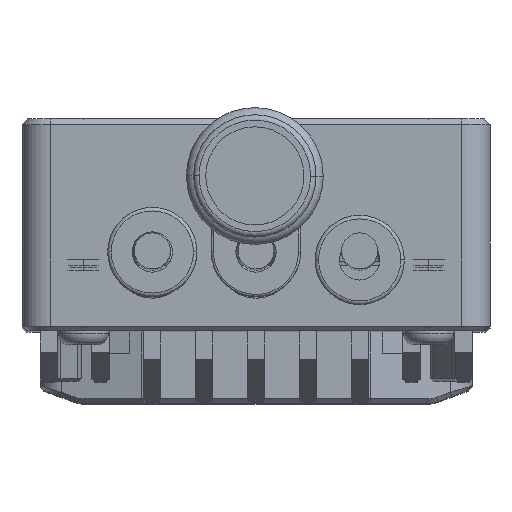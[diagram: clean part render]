
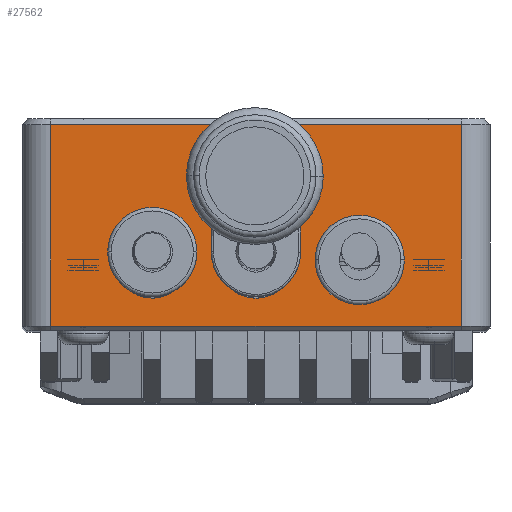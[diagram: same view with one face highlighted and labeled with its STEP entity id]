
A CAD part, top view. The second image highlights one B-rep face of the part: STEP entity #27562.
In plain terms, the highlighted planar face has unit normal (0, 0, 1).
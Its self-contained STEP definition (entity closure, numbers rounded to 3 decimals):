
#2441=DIRECTION('',(1.,0.,0.));
#2442=VECTOR('',#2441,28.5);
#2443=CARTESIAN_POINT('',(-14.25,16.9,35.5));
#2444=LINE('',#2443,#2442);
#2445=DIRECTION('',(-1.,0.,0.));
#2446=VECTOR('',#2445,28.5);
#2447=CARTESIAN_POINT('',(14.25,2.9,35.5));
#2448=LINE('',#2447,#2446);
#2449=CARTESIAN_POINT('',(7.2,7.5,35.5));
#2450=DIRECTION('',(0.,0.,-1.));
#2451=DIRECTION('',(-1.,0.,0.));
#2452=AXIS2_PLACEMENT_3D('',#2449,#2450,#2451);
#2454=CARTESIAN_POINT('',(7.2,7.5,35.5));
#2455=DIRECTION('',(0.,0.,-1.));
#2456=DIRECTION('',(1.,0.,0.));
#2457=AXIS2_PLACEMENT_3D('',#2454,#2455,#2456);
#2459=CARTESIAN_POINT('',(-7.2,8.05,35.5));
#2460=DIRECTION('',(0.,0.,-1.));
#2461=DIRECTION('',(-1.,0.,0.));
#2462=AXIS2_PLACEMENT_3D('',#2459,#2460,#2461);
#2464=CARTESIAN_POINT('',(-7.2,8.05,35.5));
#2465=DIRECTION('',(0.,0.,-1.));
#2466=DIRECTION('',(-0.531,-0.848,0.));
#2467=AXIS2_PLACEMENT_3D('',#2464,#2465,#2466);
#2469=CARTESIAN_POINT('',(-7.2,7.5,35.5));
#2470=DIRECTION('',(0.,0.,1.));
#2471=DIRECTION('',(-0.621,-0.784,0.));
#2472=AXIS2_PLACEMENT_3D('',#2469,#2470,#2471);
#2474=CARTESIAN_POINT('',(-7.2,8.05,35.5));
#2475=DIRECTION('',(0.,0.,-1.));
#2476=DIRECTION('',(1.,0.,0.));
#2477=AXIS2_PLACEMENT_3D('',#2474,#2475,#2476);
#2479=DIRECTION('',(-0.004,-1.,0.));
#2480=VECTOR('',#2479,7.);
#2481=CARTESIAN_POINT('',(-3.074,15.061,35.5));
#2482=LINE('',#2481,#2480);
#2483=CARTESIAN_POINT('',(0.,8.05,35.5));
#2484=DIRECTION('',(0.,0.,1.));
#2485=DIRECTION('',(-1.,0.004,0.));
#2486=AXIS2_PLACEMENT_3D('',#2483,#2484,#2485);
#2488=CARTESIAN_POINT('',(0.,7.5,35.5));
#2489=DIRECTION('',(0.,0.,1.));
#2490=DIRECTION('',(-0.621,-0.784,0.));
#2491=AXIS2_PLACEMENT_3D('',#2488,#2489,#2490);
#2493=CARTESIAN_POINT('',(0.,8.05,35.5));
#2494=DIRECTION('',(0.,0.,1.));
#2495=DIRECTION('',(0.531,-0.848,0.));
#2496=AXIS2_PLACEMENT_3D('',#2493,#2494,#2495);
#2498=DIRECTION('',(0.004,1.,0.));
#2499=VECTOR('',#2498,7.);
#2500=CARTESIAN_POINT('',(3.1,8.039,35.5));
#2501=LINE('',#2500,#2499);
#2502=CARTESIAN_POINT('',(1.626,15.044,35.5));
#2503=DIRECTION('',(0.,0.,1.));
#2504=DIRECTION('',(1.,-0.004,0.));
#2505=AXIS2_PLACEMENT_3D('',#2502,#2503,#2504);
#2507=DIRECTION('',(1.,-0.004,0.));
#2508=VECTOR('',#2507,3.2);
#2509=CARTESIAN_POINT('',(-1.569,16.556,35.5));
#2510=LINE('',#2509,#2508);
#2511=CARTESIAN_POINT('',(-1.574,15.056,35.5));
#2512=DIRECTION('',(0.,0.,1.));
#2513=DIRECTION('',(0.004,1.,0.));
#2514=AXIS2_PLACEMENT_3D('',#2511,#2512,#2513);
#2525=DIRECTION('',(0.,-1.,0.));
#2526=VECTOR('',#2525,14.);
#2527=CARTESIAN_POINT('',(-14.25,16.9,35.5));
#2528=LINE('',#2527,#2526);
#2658=DIRECTION('',(0.,1.,0.));
#2659=VECTOR('',#2658,14.);
#2660=CARTESIAN_POINT('',(14.25,2.9,35.5));
#2661=LINE('',#2660,#2659);
#21606=CARTESIAN_POINT('',(14.25,2.9,35.5));
#21608=VERTEX_POINT('',#21606);
#21609=CARTESIAN_POINT('',(-14.25,2.9,
35.5));
#21610=VERTEX_POINT('',#21609);
#23522=CARTESIAN_POINT('',(-14.25,16.9,35.5));
#23524=VERTEX_POINT('',#23522);
#23527=CARTESIAN_POINT('',(14.25,16.9,35.5));
#23528=VERTEX_POINT('',#23527);
#24124=CARTESIAN_POINT('',(4.1,7.5,35.5));
#24125=CARTESIAN_POINT('',(10.3,7.5,35.5));
#24126=VERTEX_POINT('',#24124);
#24127=VERTEX_POINT('',#24125);
#24195=CARTESIAN_POINT('',(-10.3,8.05,35.5));
#24196=CARTESIAN_POINT('',(-4.1,8.05,35.5));
#24197=VERTEX_POINT('',#24195);
#24198=VERTEX_POINT('',#24196);
#24199=CARTESIAN_POINT('',(-5.555,5.423,35.5));
#24200=VERTEX_POINT('',#24199);
#24201=CARTESIAN_POINT('',(-8.845,5.423,35.5));
#24202=VERTEX_POINT('',#24201);
#24505=CARTESIAN_POINT('',(-3.074,15.061,35.5));
#24506=CARTESIAN_POINT('',(-3.1,8.061,35.5));
#24507=VERTEX_POINT('',#24505);
#24508=VERTEX_POINT('',#24506);
#24509=CARTESIAN_POINT('',(-1.645,5.423,35.5));
#24510=VERTEX_POINT('',#24509);
#24511=CARTESIAN_POINT('',(1.645,5.423,35.5));
#24512=CARTESIAN_POINT('',(3.1,8.039,35.5));
#24513=VERTEX_POINT('',#24511);
#24514=VERTEX_POINT('',#24512);
#24515=CARTESIAN_POINT('',(3.126,15.038,35.5));
#24516=VERTEX_POINT('',#24515);
#24517=CARTESIAN_POINT('',(-1.569,16.556,35.5));
#24518=CARTESIAN_POINT('',(1.631,16.544,35.5));
#24519=VERTEX_POINT('',#24517);
#24520=VERTEX_POINT('',#24518);
#27516=CARTESIAN_POINT('',(-16.25,0.,35.5));
#27517=DIRECTION('',(0.,0.,1.));
#27518=DIRECTION('',(1.,0.,0.));
#27519=AXIS2_PLACEMENT_3D('',#27516,#27517,#27518);
#27520=PLANE('',#27519);
#27522=ORIENTED_EDGE('',*,*,#27521,.F.);
#27524=ORIENTED_EDGE('',*,*,#27523,.T.);
#27526=ORIENTED_EDGE('',*,*,#27525,.F.);
#27528=ORIENTED_EDGE('',*,*,#27527,.T.);
#27529=EDGE_LOOP('',(#27522,#27524,#27526,#27528));
#27530=FACE_OUTER_BOUND('',#27529,.F.);
#27532=ORIENTED_EDGE('',*,*,#27531,.F.);
#27534=ORIENTED_EDGE('',*,*,#27533,.F.);
#27535=EDGE_LOOP('',(#27532,#27534));
#27536=FACE_BOUND('',#27535,.F.);
#27538=ORIENTED_EDGE('',*,*,#27537,.F.);
#27539=ORIENTED_EDGE('',*,*,#27505,.F.);
#27540=ORIENTED_EDGE('',*,*,#27467,.T.);
#27541=ORIENTED_EDGE('',*,*,#27502,.F.);
#27542=EDGE_LOOP('',(#27538,#27539,#27540,#27541));
#27543=FACE_BOUND('',#27542,.F.);
#27545=ORIENTED_EDGE('',*,*,#27544,.T.);
#27547=ORIENTED_EDGE('',*,*,#27546,.T.);
#27549=ORIENTED_EDGE('',*,*,#27548,.T.);
#27551=ORIENTED_EDGE('',*,*,#27550,.T.);
#27553=ORIENTED_EDGE('',*,*,#27552,.T.);
#27555=ORIENTED_EDGE('',*,*,#27554,.T.);
#27557=ORIENTED_EDGE('',*,*,#27556,.F.);
#27559=ORIENTED_EDGE('',*,*,#27558,.T.);
#27560=EDGE_LOOP('',(#27545,#27547,#27549,#27551,#27553,#27555,#27557,#27559));
#27561=FACE_BOUND('',#27560,.F.);
#27562=ADVANCED_FACE('',(#27530,#27536,#27543,#27561),#27520,.T.);
#2453=CIRCLE('',#2452,3.1);
#2458=CIRCLE('',#2457,3.1);
#2463=CIRCLE('',#2462,3.1);
#2468=CIRCLE('',#2467,3.1);
#2473=CIRCLE('',#2472,2.65);
#2478=CIRCLE('',#2477,3.1);
#2487=CIRCLE('',#2486,3.1);
#2492=CIRCLE('',#2491,2.65);
#2497=CIRCLE('',#2496,3.1);
#2506=CIRCLE('',#2505,1.5);
#2515=CIRCLE('',#2514,1.5);
#27467=EDGE_CURVE('',#24202,#24200,#2473,.T.);
#27502=EDGE_CURVE('',#24198,#24200,#2478,.T.);
#27505=EDGE_CURVE('',#24202,#24197,#2468,.T.);
#27521=EDGE_CURVE('',#23524,#21610,#2528,.T.);
#27523=EDGE_CURVE('',#23524,#23528,#2444,.T.);
#27525=EDGE_CURVE('',#21608,#23528,#2661,.T.);
#27527=EDGE_CURVE('',#21608,#21610,#2448,.T.);
#27531=EDGE_CURVE('',#24126,#24127,#2453,.T.);
#27533=EDGE_CURVE('',#24127,#24126,#2458,.T.);
#27537=EDGE_CURVE('',#24197,#24198,#2463,.T.);
#27544=EDGE_CURVE('',#24507,#24508,#2482,.T.);
#27546=EDGE_CURVE('',#24508,#24510,#2487,.T.);
#27548=EDGE_CURVE('',#24510,#24513,#2492,.T.);
#27550=EDGE_CURVE('',#24513,#24514,#2497,.T.);
#27552=EDGE_CURVE('',#24514,#24516,#2501,.T.);
#27554=EDGE_CURVE('',#24516,#24520,#2506,.T.);
#27556=EDGE_CURVE('',#24519,#24520,#2510,.T.);
#27558=EDGE_CURVE('',#24519,#24507,#2515,.T.);
